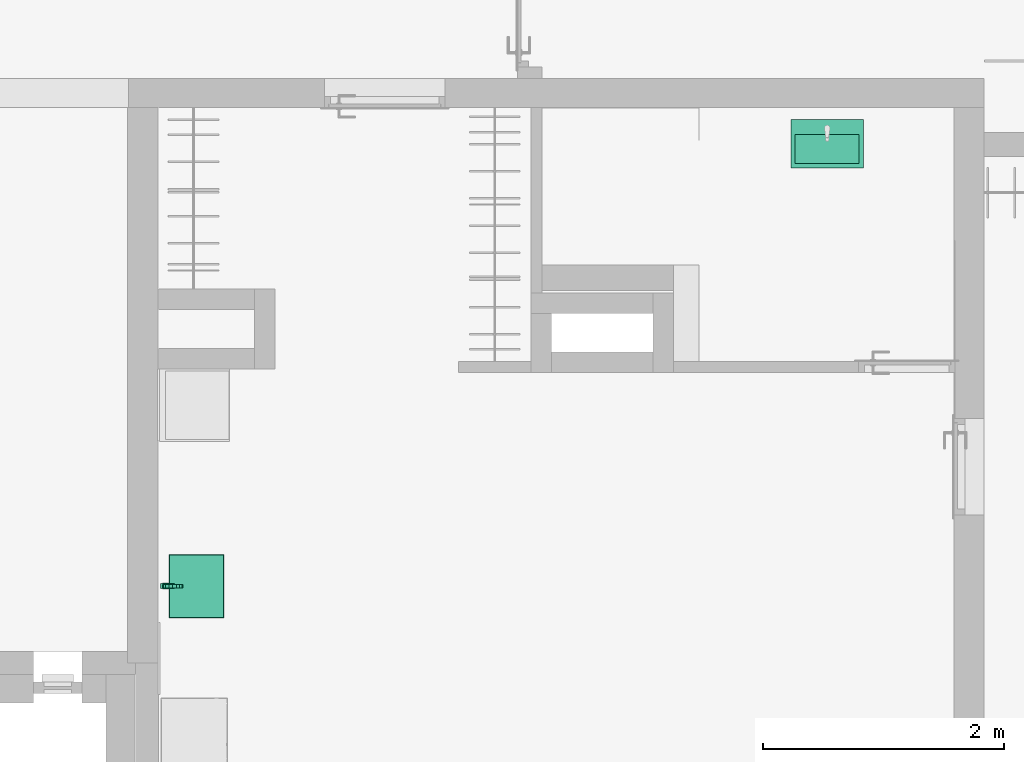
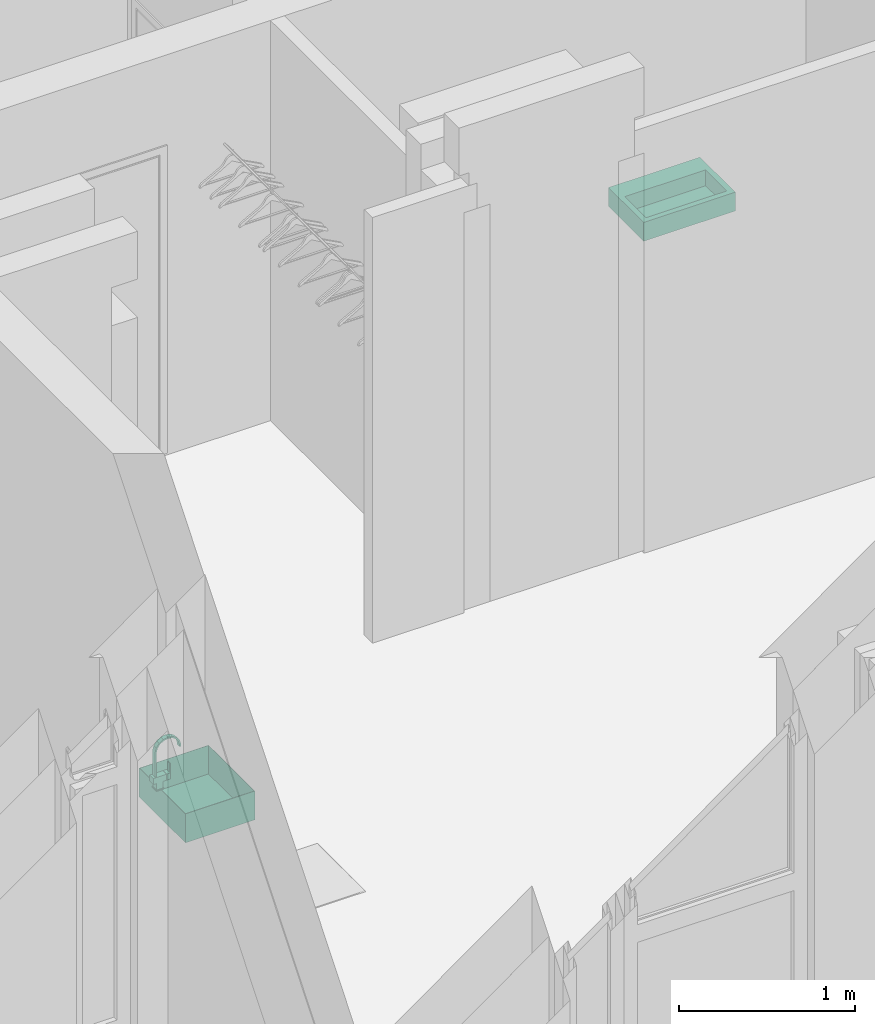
# One storey, part 15 of 42: 3 flow terminals.
"""IFC2X3 building model written with IfcOpenShell, lengths in millimetres."""

from ifc_helpers import new_model, entity, si_unit, converted_unit, direction, frame, origin, place, context, subcontext, project, spatial, faceted_brep, source, transform, mapped, material, type_object, type_shapes, element, save


model = new_model("IFC2X3")

# Units and contexts
model_context = context("Model", 3, precision=0.01, world=origin(), true_north=direction((6.123233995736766e-17, 1.0)))
plan_context = context("Plan", 3, precision=0.01, world=origin(), true_north=direction((6.123233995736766e-17, 1.0)))
body_context = subcontext(model_context, "Body", "Model", "MODEL_VIEW")
ifc_project = project(units=[si_unit("LENGTHUNIT", "METRE", prefix="MILLI"), converted_unit("PLANEANGLEUNIT", "DEGREE", entity("IfcPlaneAngleMeasure", 0.017453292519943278), si_unit("PLANEANGLEUNIT", "RADIAN"), dimensions=[0, 0, 0, 0, 0, 0, 0]), si_unit("AREAUNIT", "SQUARE_METRE")], contexts=[model_context, plan_context])

# Site, building, storey, space
site_placement = place(None, origin())
site = spatial("IfcSite", under=ifc_project, at=site_placement, Name="Default", CompositionType="ELEMENT")
building_placement = place(site_placement, origin())
building = spatial("IfcBuilding", under=site, at=building_placement, CompositionType="ELEMENT")
storey_placement = place(building_placement, frame((0.0, 0.0, 9465.000076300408)))
storey = spatial("IfcBuildingStorey", under=building, at=storey_placement, Name="4K", CompositionType="ELEMENT", Elevation=9465.000076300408)
space_1_placement = place(storey_placement, origin())
space_1 = spatial("IfcSpace", under=storey, at=space_1_placement, Name="4-11.2", CompositionType="ELEMENT", InteriorOrExteriorSpace="INTERNAL")

# Flow terminals
ifc_material = material(Name="<Unnamed>")
distribution_element_type_1 = type_object("IfcDistributionElementType", Name="HR_Plumbing-fixtures_Sink_Generic_Kitchen_v1:Default", material=ifc_material)
shared_shape_1 = source(origin(), body_context, "Body", "Brep", [
    faceted_brep([(260.0, -50.0, -3825.0), (260.0, -500.0, -3825.0), (-260.0, -500.0, -3825.0), (-260.0, -50.0, -3825.0), (262.0, -48.0, -3825.0), (-262.0, -48.0, -3825.0), (-262.0, -502.0, -3825.0), (262.0, -502.0, -3825.0), (262.0, -48.0, -4025.0), (262.0, -502.0, -4025.0), (-262.0, -502.0, -4025.0), (-262.0, -48.0, -4025.0), (260.0, -50.0, -4023.0), (260.0, -500.0, -4023.0), (-260.0, -500.0, -4023.0), (-260.0, -50.0, -4023.0)], [[[0, 1, 2, 3], [4, 5, 6, 7]], [[8, 9, 10, 11]], [[1, 0, 12, 13]], [[2, 1, 13, 14]], [[3, 2, 14, 15]], [[0, 3, 15, 12]], [[5, 4, 8, 11]], [[6, 5, 11, 10]], [[7, 6, 10, 9]], [[4, 7, 9, 8]], [[13, 12, 15, 14]]], outer=[[False, True], [True], [True], [True], [True], [True], [True], [True], [True], [True], [True]]),
])
type_shapes(distribution_element_type_1, [shared_shape_1])
flow_terminal_1_placement = place(space_1_placement, frame((5894.9950608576, 2440.0, 4695.0), z_axis=(0.0, 0.0, 1.0), x_axis=(0.0, -1.0, 0.0)))
element("IfcFlowTerminal", 1, at=flow_terminal_1_placement, inside=space_1, type_object=distribution_element_type_1, material=ifc_material, Name="HR_Plumbing-fixtures_Sink_Generic_Kitchen_v1:Default", ObjectType="HR_Plumbing-fixtures_Sink_Generic_Kitchen_v1:Default", context=body_context, shape_type="MappedRepresentation", body=[
    mapped(shared_shape_1, transform((0.0, 0.0, 0.0), scale=1.0)),
])
distribution_element_type_2 = type_object("IfcDistributionElementType", Name="HR_Plumbing-fixtures_Faucet_Generic_v1:Default", material=ifc_material)
shared_shape_2 = source(origin(), body_context, "Body", "Brep", [
    faceted_brep([(-21.0, 45.0, 93.0), (21.0, 45.0, 93.0), (21.0, 71.0, 93.0), (11.500000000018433, 71.0, 93.0), (11.50000000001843, 68.0, 93.0), (-11.49999999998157, 68.0, 93.0), (-11.499999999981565, 71.0, 93.0), (-21.0, 71.0, 93.0), (-21.0, 45.0, 52.0), (-21.0, 71.0, 52.0), (-11.499999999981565, 71.0, 52.0), (-11.49999999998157, 68.0, 52.0), (11.50000000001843, 68.0, 52.0), (11.500000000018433, 71.0, 52.0), (21.0, 71.0, 52.0), (21.0, 45.0, 52.0), (-11.499999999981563, 74.0, 155.0), (-11.499999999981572, 68.0, 155.0), (11.500000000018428, 68.0, 155.0), (11.500000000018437, 74.0, 155.0), (-11.499999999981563, 74.0, 47.0), (11.500000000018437, 74.0, 47.0), (11.500000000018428, 68.0, 47.0), (-11.499999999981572, 68.0, 47.0)], [[[0, 1, 2, 3, 4, 5, 6, 7]], [[8, 9, 10, 11, 12, 13, 14, 15]], [[1, 0, 8, 15]], [[2, 1, 15, 14]], [[2, 14, 13, 3]], [[0, 7, 9, 8]], [[16, 17, 18, 19]], [[20, 21, 22, 23]], [[17, 16, 20, 23, 11, 10, 6, 5]], [[18, 17, 5, 4]], [[19, 18, 4, 3, 13, 12, 22, 21]], [[16, 19, 21, 20]], [[23, 22, 12, 11]], [[9, 7, 6, 10]]]),
    faceted_brep([(15.0, -28.2999999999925, 93.0), (-15.0, -28.299999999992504, 93.0), (-15.0, -18.299999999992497, 93.0), (15.0, -18.299999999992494, 93.0), (15.0, -28.299999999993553, 262.91444034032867), (-15.0, -28.29999999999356, 262.9144403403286), (-15.0, -18.29999999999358, 262.49427421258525), (15.0, -18.299999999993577, 262.49427421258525), (15.0, -24.100059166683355, 278.21407775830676), (15.0, -19.900118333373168, 293.51371517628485), (-15.0, -19.900118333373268, 293.5137151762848), (-15.0, -24.100059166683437, 278.2140777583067), (-15.0, -0.9291565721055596, 318.9494428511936), (-15.0, -10.414637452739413, 306.2315790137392), (15.0, -10.414637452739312, 306.23157901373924), (15.0, -0.9291565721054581, 318.9494428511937), (15.0, 142.33160759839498, 262.51576689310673), (-15.0, 142.33160759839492, 262.51576689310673), (-15.0, 138.20320612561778, 277.83486312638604), (-15.0, 134.07480465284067, 293.15395935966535), (15.0, 134.07480465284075, 293.15395935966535), (15.0, 138.20320612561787, 277.83486312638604), (-15.0, 26.005040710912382, 335.7250992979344), (-15.0, 12.537942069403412, 327.337271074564), (15.0, 12.537942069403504, 327.337271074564), (15.0, 26.005040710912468, 335.7250992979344), (-15.0, 57.19996222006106, 341.5346177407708), (-15.0, 41.60250146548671, 338.6298585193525), (15.0, 41.60250146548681, 338.62985851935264), (15.0, 57.19996222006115, 341.5346177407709), (-15.0, 88.36739590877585, 335.5793923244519), (-15.0, 72.78367906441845, 338.55700503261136), (15.0, 72.78367906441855, 338.55700503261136), (15.0, 88.36739590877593, 335.5793923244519), (-15.0, 124.64885649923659, 305.9160089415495), (-15.0, 115.22290834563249, 318.67805852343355), (15.0, 115.22290834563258, 318.67805852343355), (15.0, 124.64885649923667, 305.9160089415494), (-15.0, 101.79515212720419, 327.1287254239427), (15.0, 101.79515212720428, 327.1287254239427), (-15.0, 142.3316075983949, 249.0), (-15.0, 132.33160759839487, 249.0), (-15.0, 132.3316075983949, 262.11973222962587), (-15.0, 128.64003790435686, 275.58767371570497), (-15.0, 124.94846821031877, 289.05561520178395), (-15.0, 116.61798076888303, 300.2634746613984), (-15.0, 108.28749332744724, 311.4713341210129), (-15.0, 96.45555148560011, 318.88876541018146), (-15.0, 84.623609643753, 326.30619669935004), (-15.0, 70.90577314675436, 328.9204071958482), (-15.0, 57.187936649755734, 331.53461769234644), (-15.0, 43.457269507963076, 328.98865726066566), (-15.0, 29.726602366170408, 326.4426968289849), (-15.0, 17.85792051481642, 319.08419658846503), (-15.0, 5.989238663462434, 311.72569634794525), (-15.0, -2.3968815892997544, 300.55940234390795), (-15.0, -10.783001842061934, 289.3931083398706), (-15.0, -14.541500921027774, 275.9436912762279), (15.0, -10.783001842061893, 289.3931083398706), (15.0, -14.541500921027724, 275.9436912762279), (15.0, 5.989238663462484, 311.7256963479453), (15.0, -2.396881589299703, 300.55940234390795), (15.0, 116.61798076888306, 300.2634746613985), (15.0, 108.28749332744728, 311.47133412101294), (15.0, 124.94846821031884, 289.05561520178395), (15.0, 29.726602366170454, 326.4426968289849), (15.0, 17.857920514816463, 319.08419658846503), (15.0, 57.187936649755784, 331.53461769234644), (15.0, 43.45726950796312, 328.98865726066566), (15.0, 84.62360964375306, 326.30619669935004), (15.0, 70.90577314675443, 328.9204071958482), (15.0, 127.94606568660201, 278.11949025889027), (15.0, 132.33160759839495, 262.11973222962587), (15.0, 96.45555148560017, 318.88876541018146), (15.0, 132.33160759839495, 249.0), (15.0, 142.33160759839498, 249.0)], [[[0, 1, 2, 3]], [[1, 0, 4, 5]], [[3, 2, 6, 7]], [[4, 8, 9, 10, 11, 5]], [[12, 13, 10, 9, 14, 15]], [[16, 17, 18, 19, 20, 21]], [[22, 23, 12, 15, 24, 25]], [[26, 27, 22, 25, 28, 29]], [[30, 31, 26, 29, 32, 33]], [[34, 35, 36, 37, 20, 19]], [[35, 38, 30, 33, 39, 36]], [[17, 40, 41, 42, 43, 44, 45, 46, 47, 48, 49, 50, 51, 52, 53, 54, 55, 56, 57, 6, 2, 1, 5, 11, 10, 13, 12, 23, 22, 27, 26, 31, 30, 38, 35, 34, 19, 18]], [[6, 57, 56, 58, 59, 7]], [[60, 61, 58, 56, 55, 54]], [[62, 63, 46, 45, 44, 64]], [[65, 66, 60, 54, 53, 52]], [[65, 52, 51, 50, 67, 68]], [[69, 70, 67, 50, 49, 48]], [[71, 64, 44, 43, 42, 72]], [[47, 46, 63, 73, 69, 48]], [[72, 74, 75, 16, 21, 20, 37, 36, 39, 33, 32, 29, 28, 25, 24, 15, 14, 9, 8, 4, 0, 3, 7, 59, 58, 61, 60, 66, 65, 68, 67, 70, 69, 73, 63, 62, 64, 71]], [[41, 40, 75, 74]], [[17, 16, 75, 40]], [[72, 42, 41, 74]]]),
    faceted_brep([(-21.0, -43.0, 93.0), (21.0, -43.0, 93.0), (21.0, 43.0, 93.0), (-21.0, 43.0, 93.0), (-21.0, -43.0, 52.0), (-21.0, 43.0, 52.0), (21.0, 43.0, 52.0), (21.0, -43.0, 52.0)], [[[0, 1, 2, 3]], [[4, 5, 6, 7]], [[1, 0, 4, 7]], [[2, 1, 7, 6]], [[3, 2, 6, 5]], [[0, 3, 5, 4]]]),
    faceted_brep([(21.0, -21.0, 52.0), (21.0, 21.0, 52.0), (-21.0, 21.0, 52.0), (-21.0, -21.0, 52.0), (21.0, -21.0, 7.0), (-21.0, -21.0, 7.0), (-21.0, 21.0, 7.0), (21.0, 21.0, 7.0)], [[[0, 1, 2, 3]], [[4, 5, 6, 7]], [[1, 0, 4, 7]], [[2, 1, 7, 6]], [[3, 2, 6, 5]], [[0, 3, 5, 4]]]),
    faceted_brep([(-25.0, 25.0, 7.0), (-25.0, -25.0, 7.0), (25.0, -25.0, 7.0), (25.0, 25.0, 7.0), (-25.0, 25.0, 0.0), (25.0, 25.0, 0.0), (25.0, -25.0, 0.0), (-25.0, -25.0, 0.0)], [[[0, 1, 2, 3]], [[4, 5, 6, 7]], [[1, 0, 4, 7]], [[2, 1, 7, 6]], [[3, 2, 6, 5]], [[0, 3, 5, 4]]]),
])
type_shapes(distribution_element_type_2, [shared_shape_2])
flow_terminal_2_placement = place(space_1_placement, frame((5364.995060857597, 2440.0, 900.0), z_axis=(0.0, 0.0, 1.0), x_axis=(0.0, -1.0, 0.0)))
element("IfcFlowTerminal", 2, at=flow_terminal_2_placement, inside=space_1, type_object=distribution_element_type_2, material=ifc_material, Name="HR_Plumbing-fixtures_Faucet_Generic_v1:Default", ObjectType="HR_Plumbing-fixtures_Faucet_Generic_v1:Default", context=body_context, shape_type="MappedRepresentation", body=[
    mapped(shared_shape_2, transform((0.0, 0.0, 0.0), scale=1.0)),
])

# Space
space_2_placement = place(storey_placement, origin())
space_2 = spatial("IfcSpace", under=storey, at=space_2_placement, Name="4-11.5", CompositionType="ELEMENT", InteriorOrExteriorSpace="INTERNAL")

# Flow terminal
distribution_element_type_3 = type_object("IfcDistributionElementType", Name="HR_Plumbing-fixtures_Sink_Generic_Bathroom_v1:600 x 400 mm", material=ifc_material)
shared_shape_3 = source(origin(), body_context, "Body", "Brep", [
    faceted_brep([(300.0, 0.0, 0.0), (-300.0, 0.0, 0.0), (-300.0, -400.0, 0.0), (300.0, -400.0, 0.0), (-265.0, -125.0, 0.0), (265.0, -125.0, 0.0), (265.0, -365.0, 0.0), (-265.0, -365.0, 0.0), (300.0, 0.0, -130.0), (300.0, -400.0, -130.0), (-300.0, -400.0, -130.0), (-300.0, 0.0, -130.0), (265.0, -125.0, -110.0), (-265.0, -125.0, -110.0), (-265.0, -365.0, -110.0), (265.0, -365.0, -110.0)], [[[0, 1, 2, 3], [4, 5, 6, 7]], [[8, 9, 10, 11]], [[1, 0, 8, 11]], [[2, 1, 11, 10]], [[3, 2, 10, 9]], [[0, 3, 9, 8]], [[12, 13, 14, 15]], [[13, 12, 5, 4]], [[14, 13, 4, 7]], [[15, 14, 7, 6]], [[12, 15, 6, 5]]]),
])
type_shapes(distribution_element_type_3, [shared_shape_3])
flow_terminal_3_placement = place(space_2_placement, frame((10844.993534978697, 6304.9999594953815, 900.0)))
element("IfcFlowTerminal", 3, at=flow_terminal_3_placement, inside=space_2, type_object=distribution_element_type_3, material=ifc_material, Name="HR_Plumbing-fixtures_Sink_Generic_Bathroom_v1:600 x 400 mm", ObjectType="HR_Plumbing-fixtures_Sink_Generic_Bathroom_v1:600 x 400 mm", context=body_context, shape_type="MappedRepresentation", body=[
    mapped(shared_shape_3, transform((0.0, 0.0, 0.0), scale=1.0)),
])

save(model, "model.ifc")
